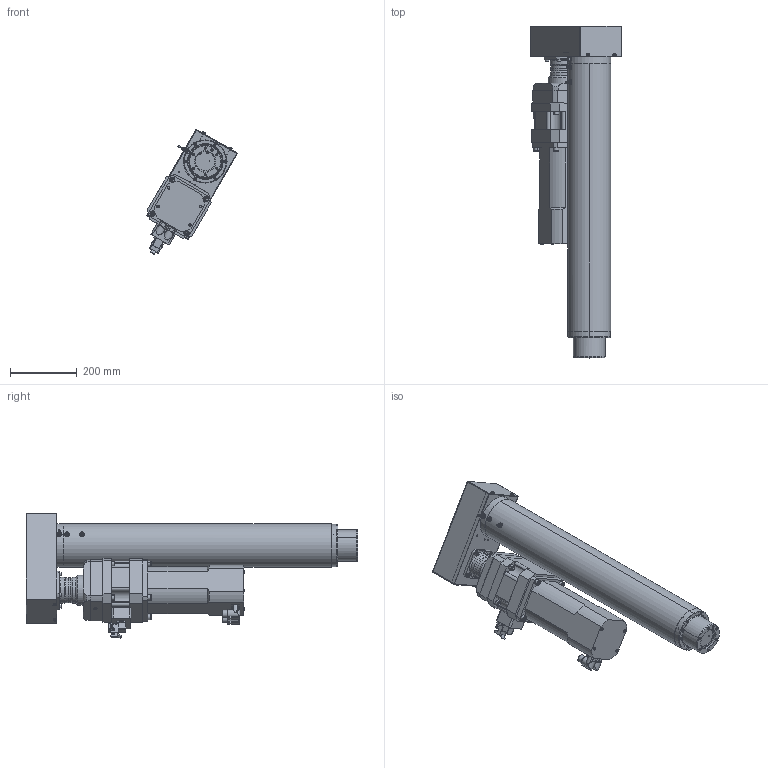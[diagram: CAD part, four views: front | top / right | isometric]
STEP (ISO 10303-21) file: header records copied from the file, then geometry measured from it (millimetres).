
FILE_DESCRIPTION (( 'STEP AP214' ), '1' );
FILE_NAME ('RLWPK030D-055-025SG0.STEP', '2023-04-05T14:20:40', ( '' ), ( '' ), 'SwSTEP 2.0', 'SolidWorks 2021', '' );
FILE_SCHEMA (( 'AUTOMOTIVE_DESIGN' ));
Length unit declared in the file: millimetre
Products named in the file (1): RLWPK030D-055-025SG0
Bounding box: 272.28 x 992.5 x 374.41 mm (x, y, z)
Volume: 17259846.8 mm3; surface area: 1912563.1 mm2
Topology: 35 solids, 35 shells, 1467 faces, 3485 edges, 2107 vertices
Faces by surface type: cylinder 583, plane 558, cone 230, torus 88, bspline 6, sphere 2
Entity records: 59601 total; most frequent: CARTESIAN_POINT 8772, DIRECTION 7652, ORIENTED_EDGE 6690, EDGE_CURVE 3345, AXIS2_PLACEMENT_3D 2963, VERTEX_POINT 2107, EDGE_LOOP 1734, VECTOR 1726
